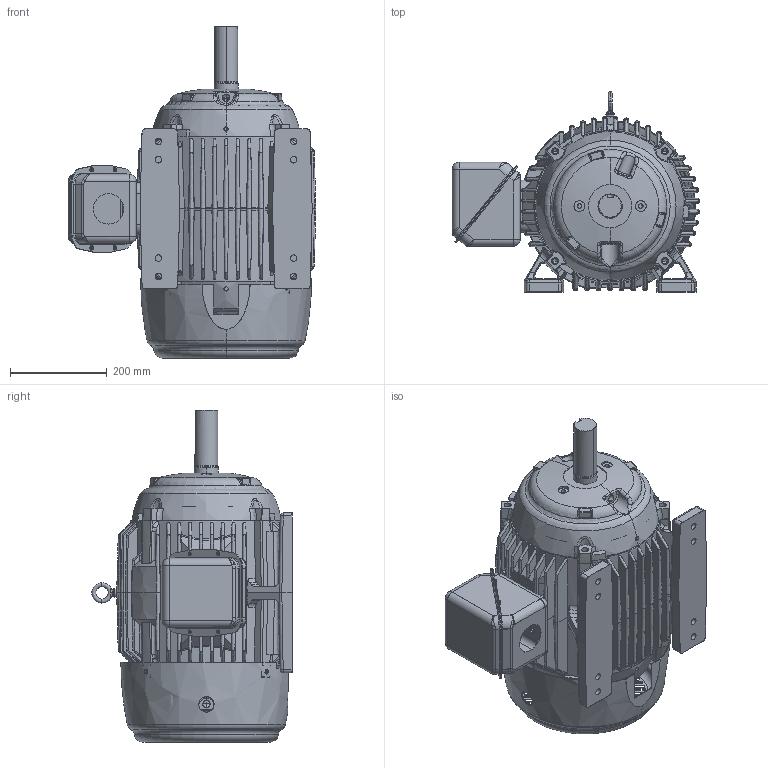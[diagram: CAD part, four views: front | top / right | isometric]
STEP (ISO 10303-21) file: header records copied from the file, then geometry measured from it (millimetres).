
FILE_DESCRIPTION((''),'2;1');
FILE_NAME('280_GP_ASSY_ASM','2014-06-24T',('NMC779F'),('Nidec Motor Corporation'),'PRO/ENGINEER BY PARAMETRIC TECHNOLOGY CORPORATION, 2013150','PRO/ENGINEER BY PARAMETRIC TECHNOLOGY CORPORATION, 2013150','');
FILE_SCHEMA(('CONFIG_CONTROL_DESIGN'));
Length unit declared in the file: inch
Products named in the file (10): 0945027; 0645671-001; 0561184; 0977923; 0645672-001; 0382077; 0133167; 0378793; 0378794; 280_GP_ASSY_ASM
Assembly tree (9 placements, depth 2):
  280_GP_ASSY_ASM
    0945027
    0645671-001
    0561184
    0977923
    0645672-001
    0382077
    0133167
    0378793
    0378794
Bounding box: 511.52 x 414.25 x 685.93 mm (x, y, z)
Volume: 11249428.1 mm3; surface area: 2698642 mm2
Topology: 11 solids, 11 shells, 2497 faces, 6373 edges, 3882 vertices
Faces by surface type: bspline 820, plane 598, cylinder 598, cone 197, torus 182, sphere 96, extrusion 6
Entity records: 113137 total; most frequent: CARTESIAN_POINT 59218, ORIENTED_EDGE 12662, DIRECTION 9144, EDGE_CURVE 6331, VERTEX_POINT 3882, AXIS2_PLACEMENT_3D 3695, EDGE_LOOP 2807, B_SPLINE_CURVE_WITH_KNOTS 2584
